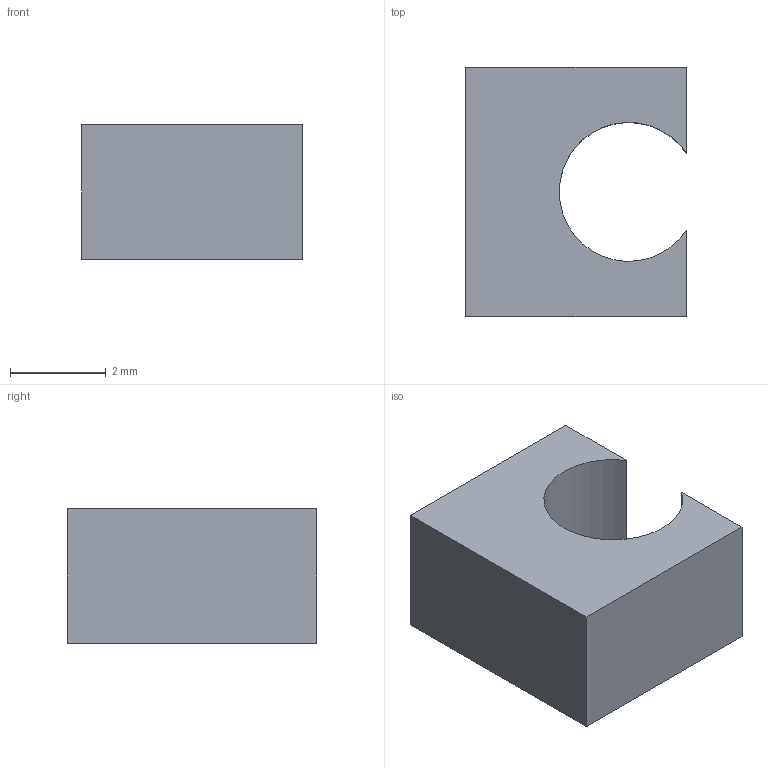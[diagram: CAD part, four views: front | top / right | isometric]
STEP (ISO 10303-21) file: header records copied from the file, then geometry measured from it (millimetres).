
FILE_DESCRIPTION(('Open CASCADE Model'),'2;1');
FILE_NAME('Open CASCADE Shape Model','2026-09-15T13:32:13',('Author'),( 'Open CASCADE'),'Open CASCADE STEP processor 7.7','Open CASCADE 7.7' ,'Unknown');
FILE_SCHEMA(('AUTOMOTIVE_DESIGN { 1 0 10303 214 1 1 1 1 }'));
Length unit declared in the file: millimetre
Products named in the file (1): ADD_P02_Closure_33.4_56_Head_Bolster
Bounding box: 4.6 x 5.2 x 2.8 mm (x, y, z)
Volume: 48.9 mm3; surface area: 104.8 mm2
Topology: 1 solids, 1 shells, 9 faces, 21 edges, 14 vertices
Faces by surface type: plane 7, cylinder 1, cone 1
Entity records: 543 total; most frequent: CARTESIAN_POINT 105, DIRECTION 80, LINE 48, VECTOR 48, ORIENTED_EDGE 42, PCURVE 42, DEFINITIONAL_REPRESENTATION 42, EDGE_CURVE 21
